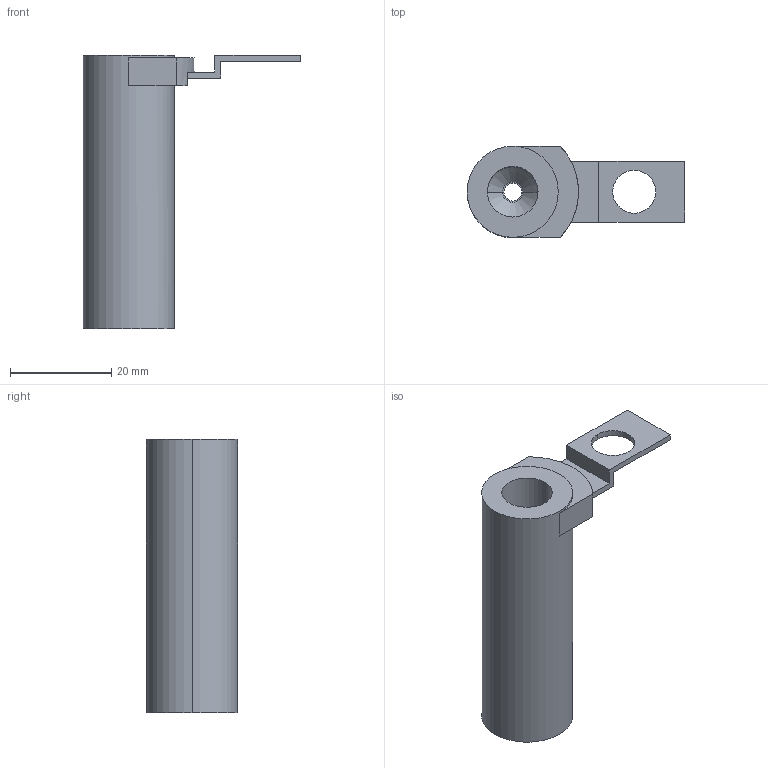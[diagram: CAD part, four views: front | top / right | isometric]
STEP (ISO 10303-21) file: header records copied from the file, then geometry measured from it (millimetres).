
FILE_DESCRIPTION(/* description */ (''),/* implementation_level */ '2;1');
FILE_NAME(/* name */ '3d_tus10-54_06243_r00.stp',/* time_stamp */ '2011-01-10T14:08:55+09:00',/* author */ ('MISUMI'),/* organization */ (''),/* preprocessor_version */ 'ST-DEVELOPER v11',/* originating_system */ 'UGS - NX 5.0',/* authorisation */ '');
FILE_SCHEMA (('CONFIG_CONTROL_DESIGN'));
Length unit declared in the file: millimetre
Products named in the file (1): 3d_tus10-54_06243_r00
Bounding box: 43 x 18 x 54 mm (x, y, z)
Volume: 10728.7 mm3; surface area: 6026.9 mm2
Topology: 2 solids, 2 shells, 32 faces, 83 edges, 56 vertices
Faces by surface type: plane 21, cylinder 9, cone 2
Entity records: 1083 total; most frequent: DIRECTION 177, CARTESIAN_POINT 172, ORIENTED_EDGE 166, EDGE_CURVE 83, AXIS2_PLACEMENT_3D 61, VERTEX_POINT 56, LINE 55, VECTOR 55
